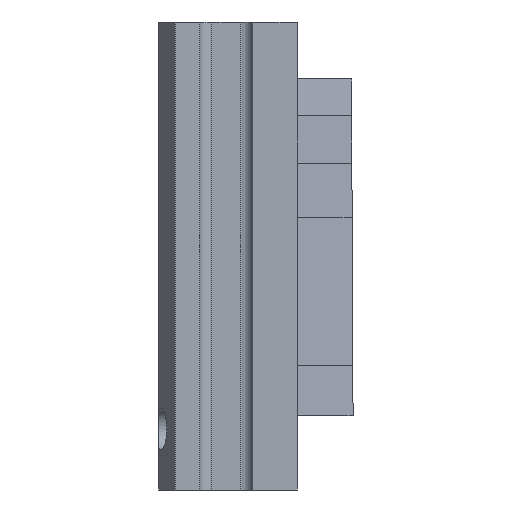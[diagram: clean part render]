
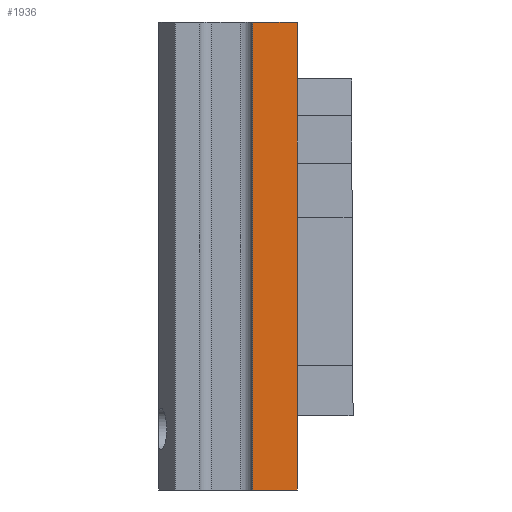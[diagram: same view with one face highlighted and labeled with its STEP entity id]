
A CAD part, left-side view. The second image highlights one B-rep face of the part: STEP entity #1936.
In plain terms, the highlighted planar face has unit normal (-1, 0, 0).
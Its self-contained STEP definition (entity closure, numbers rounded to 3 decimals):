
#24 = VERTEX_POINT('',#25);
#25 = CARTESIAN_POINT('',(-45.,16.,90.));
#32 = PLANE('',#33);
#33 = AXIS2_PLACEMENT_3D('',#34,#35,#36);
#34 = CARTESIAN_POINT('',(-45.,16.,-6.73));
#35 = DIRECTION('',(0.,-1.,0.));
#36 = DIRECTION('',(1.,0.,0.));
#44 = PLANE('',#45);
#45 = AXIS2_PLACEMENT_3D('',#46,#47,#48);
#46 = CARTESIAN_POINT('',(-45.,16.,90.));
#47 = DIRECTION('',(0.,0.,-1.));
#48 = DIRECTION('',(0.972,0.236,0.));
#56 = EDGE_CURVE('',#24,#57,#59,.T.);
#57 = VERTEX_POINT('',#58);
#58 = CARTESIAN_POINT('',(-45.,16.,-25.));
#59 = SURFACE_CURVE('',#60,(#64,#71),.PCURVE_S1.);
#60 = LINE('',#61,#62);
#61 = CARTESIAN_POINT('',(-45.,16.,90.));
#62 = VECTOR('',#63,1.);
#63 = DIRECTION('',(0.,0.,-1.));
#64 = PCURVE('',#32,#65);
#65 = DEFINITIONAL_REPRESENTATION('',(#66),#70);
#66 = LINE('',#67,#68);
#67 = CARTESIAN_POINT('',(0.,96.73));
#68 = VECTOR('',#69,1.);
#69 = DIRECTION('',(0.,-1.));
#70 = ( GEOMETRIC_REPRESENTATION_CONTEXT(2) 
PARAMETRIC_REPRESENTATION_CONTEXT() REPRESENTATION_CONTEXT('2D SPACE',''
  ) );
#71 = PCURVE('',#72,#77);
#72 = PLANE('',#73);
#73 = AXIS2_PLACEMENT_3D('',#74,#75,#76);
#74 = CARTESIAN_POINT('',(-45.,50.,-6.73));
#75 = DIRECTION('',(-1.,0.,0.));
#76 = DIRECTION('',(0.,-1.,0.));
#77 = DEFINITIONAL_REPRESENTATION('',(#78),#82);
#78 = LINE('',#79,#80);
#79 = CARTESIAN_POINT('',(34.,96.73));
#80 = VECTOR('',#81,1.);
#81 = DIRECTION('',(0.,-1.));
#82 = ( GEOMETRIC_REPRESENTATION_CONTEXT(2) 
PARAMETRIC_REPRESENTATION_CONTEXT() REPRESENTATION_CONTEXT('2D SPACE',''
  ) );
#100 = PLANE('',#101);
#101 = AXIS2_PLACEMENT_3D('',#102,#103,#104);
#102 = CARTESIAN_POINT('',(-45.,16.,-25.));
#103 = DIRECTION('',(0.,0.,-1.));
#104 = DIRECTION('',(0.972,0.236,0.));
#1703 = EDGE_CURVE('',#1704,#24,#1706,.T.);
#1704 = VERTEX_POINT('',#1705);
#1705 = CARTESIAN_POINT('',(-45.,27.,90.));
#1706 = SURFACE_CURVE('',#1707,(#1711,#1718),.PCURVE_S1.);
#1707 = LINE('',#1708,#1709);
#1708 = CARTESIAN_POINT('',(-45.,50.,90.));
#1709 = VECTOR('',#1710,1.);
#1710 = DIRECTION('',(0.,-1.,0.));
#1711 = PCURVE('',#44,#1712);
#1712 = DEFINITIONAL_REPRESENTATION('',(#1713),#1717);
#1713 = LINE('',#1714,#1715);
#1714 = CARTESIAN_POINT('',(8.024,-33.04));
#1715 = VECTOR('',#1716,1.);
#1716 = DIRECTION('',(-0.236,0.972));
#1717 = ( GEOMETRIC_REPRESENTATION_CONTEXT(2) 
PARAMETRIC_REPRESENTATION_CONTEXT() REPRESENTATION_CONTEXT('2D SPACE',''
  ) );
#1718 = PCURVE('',#72,#1719);
#1719 = DEFINITIONAL_REPRESENTATION('',(#1720),#1724);
#1720 = LINE('',#1721,#1722);
#1721 = CARTESIAN_POINT('',(0.,96.73));
#1722 = VECTOR('',#1723,1.);
#1723 = DIRECTION('',(1.,0.));
#1724 = ( GEOMETRIC_REPRESENTATION_CONTEXT(2) 
PARAMETRIC_REPRESENTATION_CONTEXT() REPRESENTATION_CONTEXT('2D SPACE',''
  ) );
#1743 = CYLINDRICAL_SURFACE('',#1744,3.);
#1744 = AXIS2_PLACEMENT_3D('',#1745,#1746,#1747);
#1745 = CARTESIAN_POINT('',(-45.,30.,-26.));
#1746 = DIRECTION('',(-0.,-0.,-1.));
#1747 = DIRECTION('',(0.,-1.,0.));
#1936 = ADVANCED_FACE('',(#1937),#72,.T.);
#1937 = FACE_BOUND('',#1938,.T.);
#1938 = EDGE_LOOP('',(#1939,#1962,#1983,#1984));
#1939 = ORIENTED_EDGE('',*,*,#1940,.F.);
#1940 = EDGE_CURVE('',#1941,#1704,#1943,.T.);
#1941 = VERTEX_POINT('',#1942);
#1942 = CARTESIAN_POINT('',(-45.,27.,-25.));
#1943 = SURFACE_CURVE('',#1944,(#1948,#1955),.PCURVE_S1.);
#1944 = LINE('',#1945,#1946);
#1945 = CARTESIAN_POINT('',(-45.,27.,-26.));
#1946 = VECTOR('',#1947,1.);
#1947 = DIRECTION('',(0.,0.,1.));
#1948 = PCURVE('',#72,#1949);
#1949 = DEFINITIONAL_REPRESENTATION('',(#1950),#1954);
#1950 = LINE('',#1951,#1952);
#1951 = CARTESIAN_POINT('',(23.,-19.27));
#1952 = VECTOR('',#1953,1.);
#1953 = DIRECTION('',(0.,1.));
#1954 = ( GEOMETRIC_REPRESENTATION_CONTEXT(2) 
PARAMETRIC_REPRESENTATION_CONTEXT() REPRESENTATION_CONTEXT('2D SPACE',''
  ) );
#1955 = PCURVE('',#1743,#1956);
#1956 = DEFINITIONAL_REPRESENTATION('',(#1957),#1961);
#1957 = LINE('',#1958,#1959);
#1958 = CARTESIAN_POINT('',(-0.,0.));
#1959 = VECTOR('',#1960,1.);
#1960 = DIRECTION('',(-0.,-1.));
#1961 = ( GEOMETRIC_REPRESENTATION_CONTEXT(2) 
PARAMETRIC_REPRESENTATION_CONTEXT() REPRESENTATION_CONTEXT('2D SPACE',''
  ) );
#1962 = ORIENTED_EDGE('',*,*,#1963,.T.);
#1963 = EDGE_CURVE('',#1941,#57,#1964,.T.);
#1964 = SURFACE_CURVE('',#1965,(#1969,#1976),.PCURVE_S1.);
#1965 = LINE('',#1966,#1967);
#1966 = CARTESIAN_POINT('',(-45.,50.,-25.));
#1967 = VECTOR('',#1968,1.);
#1968 = DIRECTION('',(0.,-1.,0.));
#1969 = PCURVE('',#72,#1970);
#1970 = DEFINITIONAL_REPRESENTATION('',(#1971),#1975);
#1971 = LINE('',#1972,#1973);
#1972 = CARTESIAN_POINT('',(0.,-18.27));
#1973 = VECTOR('',#1974,1.);
#1974 = DIRECTION('',(1.,0.));
#1975 = ( GEOMETRIC_REPRESENTATION_CONTEXT(2) 
PARAMETRIC_REPRESENTATION_CONTEXT() REPRESENTATION_CONTEXT('2D SPACE',''
  ) );
#1976 = PCURVE('',#100,#1977);
#1977 = DEFINITIONAL_REPRESENTATION('',(#1978),#1982);
#1978 = LINE('',#1979,#1980);
#1979 = CARTESIAN_POINT('',(8.024,-33.04));
#1980 = VECTOR('',#1981,1.);
#1981 = DIRECTION('',(-0.236,0.972));
#1982 = ( GEOMETRIC_REPRESENTATION_CONTEXT(2) 
PARAMETRIC_REPRESENTATION_CONTEXT() REPRESENTATION_CONTEXT('2D SPACE',''
  ) );
#1983 = ORIENTED_EDGE('',*,*,#56,.F.);
#1984 = ORIENTED_EDGE('',*,*,#1703,.F.);
